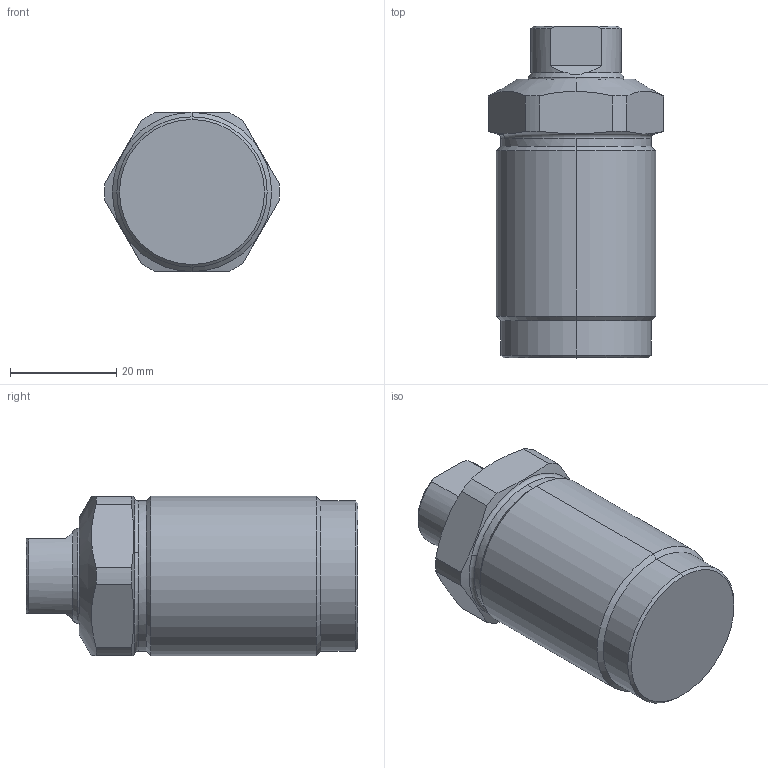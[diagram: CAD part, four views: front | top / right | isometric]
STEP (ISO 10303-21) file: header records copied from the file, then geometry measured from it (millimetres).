
FILE_DESCRIPTION((' '),'2;1');
FILE_NAME( 'TGM06-15.X_T.stp', '2024-08-27T13:43:50', (' '), ('--- Datakit www.datakit.com---'), ' Datakit CrossCadWare V2024.1 Dec 21 2023', 'Mastercam 2025', ' ');
FILE_SCHEMA(('AUTOMOTIVE_DESIGN { 1 0 10303 214 1 1 1 1 }'));
Length unit declared in the file: millimetre
Products named in the file (1): TGM06-15
Bounding box: 32.98 x 62.5 x 30 mm (x, y, z)
Volume: 37720.1 mm3; surface area: 9379.9 mm2
Topology: 2 solids, 2 shells, 58 faces, 142 edges, 89 vertices
Faces by surface type: cylinder 22, cone 18, plane 16, torus 2
Entity records: 1820 total; most frequent: CARTESIAN_POINT 416, DIRECTION 308, ORIENTED_EDGE 280, EDGE_CURVE 140, AXIS2_PLACEMENT_3D 129, VERTEX_POINT 89, CIRCLE 64, EDGE_LOOP 61
